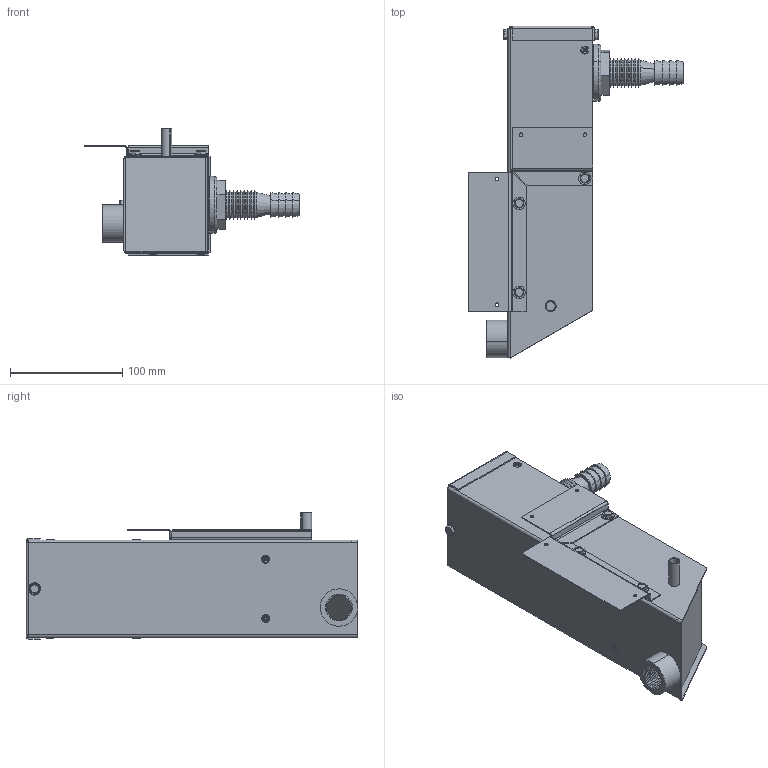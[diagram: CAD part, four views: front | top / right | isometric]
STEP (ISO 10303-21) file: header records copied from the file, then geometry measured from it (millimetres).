
FILE_DESCRIPTION (( 'STEP AP214' ), '1' );
FILE_NAME ('QCDS48A.STEP', '2016-07-14T18:07:00', ( 'BMC' ), ( 'Bard Manufacturing Co., Inc.' ), 'SwSTEP 2.0', 'SolidWorks 2016', '' );
FILE_SCHEMA (( 'AUTOMOTIVE_DESIGN' ));
Length unit declared in the file: inch
Products named in the file (16): 120-419; QCDS48A; 146-051; 1012-086; 122-115; 120-417; 1012-149; 6094-004; 6094-004, nut; 6094-004, washer; 106-268; 1012-153; 120-418; 5800-806-0100; 6093-004
Assembly tree (23 placements, depth 3):
  QCDS48A
    146-051
    1012-086  x3
    122-115
    120-417
    1012-149  x6
    6094-004
      6094-004
      6094-004, nut
      6094-004, washer
    106-268
    1012-153  x2
    120-418
    5800-806-0100
    6093-004
    120-419
Bounding box: 191.45 x 295.63 x 112.39 mm (x, y, z)
Surface area: 282133.8 mm2 (no closed solid volume)
Topology: 0 solids, 22 shells, 575 faces, 1333 edges, 837 vertices
Faces by surface type: plane 229, cylinder 170, cone 136, torus 28, bspline 12
Entity records: 15105 total; most frequent: CARTESIAN_POINT 3674, DIRECTION 2399, ORIENTED_EDGE 2148, EDGE_CURVE 1074, AXIS2_PLACEMENT_3D 895, VERTEX_POINT 664, VECTOR 609, LINE 609
